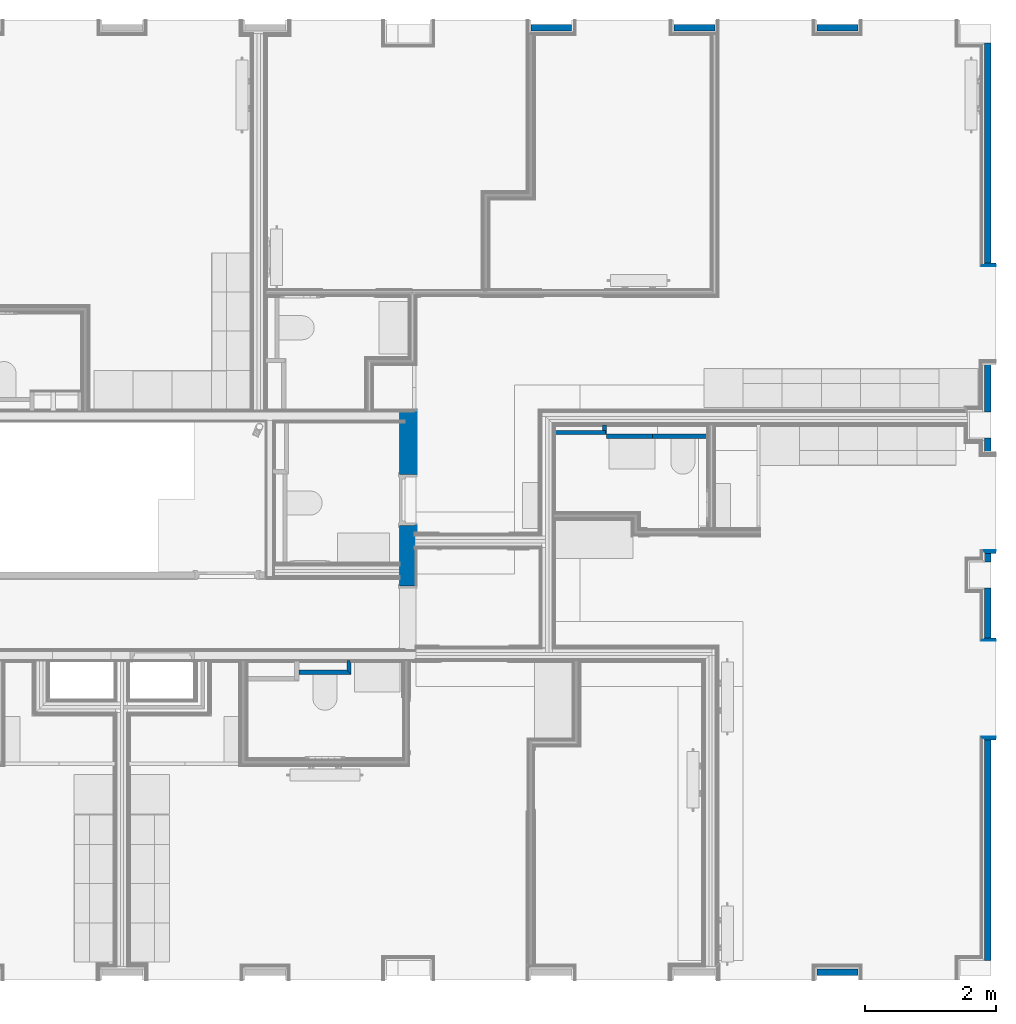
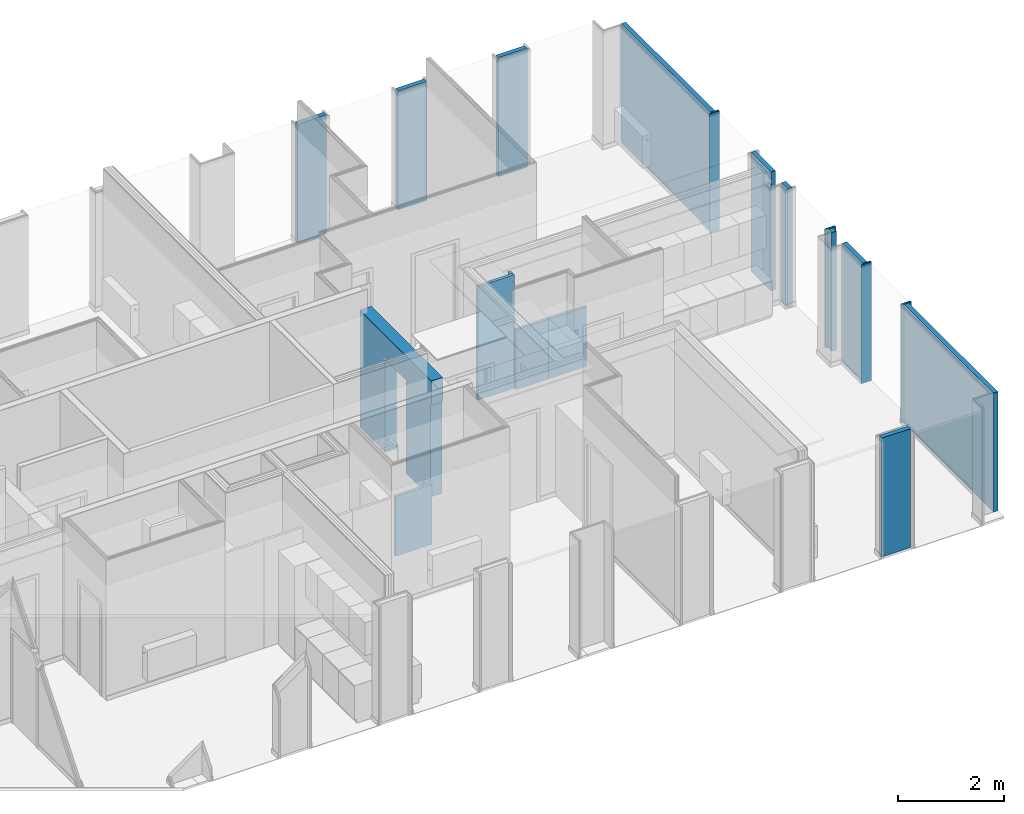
# One storey, part 6 of 65: 26 walls, 3 openings.
"""IFC2X3 building model written with IfcOpenShell, lengths in metres."""

from ifc_helpers import new_model, entity, si_unit, converted_unit, derived_unit, money_unit, direction, frame, frame_2d, origin_with_axes, place, context, subcontext, project, spatial, polyline, rectangle, outline, extrude, material, layer, layer_set, layer_usage, type_object, element, save


model = new_model("IFC2X3")

# Units and contexts
model_context = context("Model", 3, precision=1e-05, world=origin_with_axes(), true_north=direction((0.0, 1.0)))
body_context = subcontext(model_context, "Body", "Model", "MODEL_VIEW", scale=1.0)
ifc_project = project(units=[si_unit("LENGTHUNIT", "METRE"), si_unit("AREAUNIT", "SQUARE_METRE"), si_unit("VOLUMEUNIT", "CUBIC_METRE"), si_unit("ABSORBEDDOSEUNIT", "GRAY"), si_unit("AMOUNTOFSUBSTANCEUNIT", "MOLE"), si_unit("DOSEEQUIVALENTUNIT", "SIEVERT"), si_unit("ELECTRICCAPACITANCEUNIT", "FARAD"), si_unit("ELECTRICCHARGEUNIT", "COULOMB"), si_unit("ELECTRICCONDUCTANCEUNIT", "SIEMENS"), si_unit("ELECTRICCURRENTUNIT", "AMPERE"), si_unit("ELECTRICRESISTANCEUNIT", "OHM"), si_unit("ELECTRICVOLTAGEUNIT", "VOLT"), si_unit("ENERGYUNIT", "JOULE"), si_unit("FORCEUNIT", "NEWTON"), si_unit("FREQUENCYUNIT", "HERTZ"), si_unit("ILLUMINANCEUNIT", "LUX"), si_unit("INDUCTANCEUNIT", "HENRY"), si_unit("LUMINOUSFLUXUNIT", "LUMEN"), si_unit("LUMINOUSINTENSITYUNIT", "CANDELA"), si_unit("MAGNETICFLUXDENSITYUNIT", "TESLA"), si_unit("MAGNETICFLUXUNIT", "WEBER"), si_unit("MASSUNIT", "GRAM"), converted_unit("PLANEANGLEUNIT", "degree", entity("IfcReal", 0.0174532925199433), si_unit("PLANEANGLEUNIT", "RADIAN"), dimensions=[0, 0, 0, 0, 0, 0, 0]), si_unit("POWERUNIT", "WATT"), si_unit("PRESSUREUNIT", "PASCAL"), si_unit("RADIOACTIVITYUNIT", "BECQUEREL"), si_unit("SOLIDANGLEUNIT", "STERADIAN"), si_unit("THERMODYNAMICTEMPERATUREUNIT", "KELVIN"), si_unit("TIMEUNIT", "SECOND"), derived_unit("ACCELERATIONUNIT", [(si_unit("LENGTHUNIT", "METRE"), 1), (si_unit("TIMEUNIT", "SECOND"), -2)]), derived_unit("ANGULARVELOCITYUNIT", [(converted_unit("PLANEANGLEUNIT", "degree", entity("IfcReal", 0.0174532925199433), si_unit("PLANEANGLEUNIT", "RADIAN"), dimensions=[0, 0, 0, 0, 0, 0, 0]), 1), (si_unit("TIMEUNIT", "SECOND"), -1)]), derived_unit("CURVATUREUNIT", [(converted_unit("PLANEANGLEUNIT", "degree", entity("IfcReal", 0.0174532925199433), si_unit("PLANEANGLEUNIT", "RADIAN"), dimensions=[0, 0, 0, 0, 0, 0, 0]), 1), (si_unit("LENGTHUNIT", "METRE"), -1)]), derived_unit("DYNAMICVISCOSITYUNIT", [(si_unit("PRESSUREUNIT", "PASCAL"), 1), (si_unit("TIMEUNIT", "SECOND"), 1)]), derived_unit("HEATFLUXDENSITYUNIT", [(si_unit("POWERUNIT", "WATT"), 1), (si_unit("LENGTHUNIT", "METRE"), -2)]), derived_unit("HEATINGVALUEUNIT", [(si_unit("ENERGYUNIT", "JOULE"), 1), (si_unit("MASSUNIT", "GRAM"), -1)]), derived_unit("INTEGERCOUNTRATEUNIT", [(si_unit("TIMEUNIT", "SECOND"), -1)]), derived_unit("IONCONCENTRATIONUNIT", [(si_unit("MASSUNIT", "GRAM"), 1), (si_unit("VOLUMEUNIT", "CUBIC_METRE"), -1)]), derived_unit("ISOTHERMALMOISTURECAPACITYUNIT", [(si_unit("VOLUMEUNIT", "CUBIC_METRE"), 1), (si_unit("MASSUNIT", "GRAM"), -1)]), derived_unit("KINEMATICVISCOSITYUNIT", [(si_unit("AREAUNIT", "SQUARE_METRE"), 1), (si_unit("TIMEUNIT", "SECOND"), -1)]), derived_unit("LINEARFORCEUNIT", [(si_unit("FORCEUNIT", "NEWTON"), 1), (si_unit("LENGTHUNIT", "METRE"), -1)]), derived_unit("LINEARMOMENTUNIT", [(si_unit("FORCEUNIT", "NEWTON"), 1), (si_unit("LENGTHUNIT", "METRE"), -1)]), derived_unit("LINEARSTIFFNESSUNIT", [(si_unit("FORCEUNIT", "NEWTON"), 1), (si_unit("LENGTHUNIT", "METRE"), -1)]), derived_unit("LINEARVELOCITYUNIT", [(si_unit("LENGTHUNIT", "METRE"), 1), (si_unit("TIMEUNIT", "SECOND"), -1)]), derived_unit("LUMINOUSINTENSITYDISTRIBUTIONUNIT", [(si_unit("LUMINOUSINTENSITYUNIT", "CANDELA"), 1), (si_unit("LUMINOUSFLUXUNIT", "LUMEN"), -1)]), derived_unit("MASSDENSITYUNIT", [(si_unit("MASSUNIT", "GRAM"), 1), (si_unit("VOLUMEUNIT", "CUBIC_METRE"), -1)]), derived_unit("MASSFLOWRATEUNIT", [(si_unit("MASSUNIT", "GRAM"), 1), (si_unit("TIMEUNIT", "SECOND"), -1)]), derived_unit("MASSPERLENGTHUNIT", [(si_unit("MASSUNIT", "GRAM"), 1), (si_unit("LENGTHUNIT", "METRE"), -1)]), derived_unit("MODULUSOFELASTICITYUNIT", [(si_unit("FORCEUNIT", "NEWTON"), 1), (si_unit("AREAUNIT", "SQUARE_METRE"), -1)]), derived_unit("MODULUSOFLINEARSUBGRADEREACTIONUNIT", [(si_unit("FORCEUNIT", "NEWTON"), 1), (si_unit("LENGTHUNIT", "METRE"), -2)]), derived_unit("MODULUSOFROTATIONALSUBGRADEREACTIONUNIT", [(si_unit("FORCEUNIT", "NEWTON"), 1), (si_unit("LENGTHUNIT", "METRE"), 1)]), derived_unit("MODULUSOFSUBGRADEREACTIONUNIT", [(si_unit("FORCEUNIT", "NEWTON"), 1), (si_unit("VOLUMEUNIT", "CUBIC_METRE"), -1)]), derived_unit("MOISTUREDIFFUSIVITYUNIT", [(si_unit("VOLUMEUNIT", "CUBIC_METRE"), 1), (si_unit("TIMEUNIT", "SECOND"), -1)]), derived_unit("MOLECULARWEIGHTUNIT", [(si_unit("MASSUNIT", "GRAM"), 1), (si_unit("AMOUNTOFSUBSTANCEUNIT", "MOLE"), -1)]), derived_unit("PLANARFORCEUNIT", [(si_unit("FORCEUNIT", "NEWTON"), 1), (si_unit("LENGTHUNIT", "METRE"), -2)]), derived_unit("ROTATIONALFREQUENCYUNIT", [(si_unit("TIMEUNIT", "SECOND"), -1)]), derived_unit("ROTATIONALMASSUNIT", [(si_unit("MASSUNIT", "GRAM"), 1), (si_unit("LENGTHUNIT", "METRE"), 2)]), derived_unit("ROTATIONALSTIFFNESSUNIT", [(si_unit("FORCEUNIT", "NEWTON"), 1), (si_unit("LENGTHUNIT", "METRE"), 1), (converted_unit("PLANEANGLEUNIT", "degree", entity("IfcReal", 0.0174532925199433), si_unit("PLANEANGLEUNIT", "RADIAN"), dimensions=[0, 0, 0, 0, 0, 0, 0]), -1)]), derived_unit("SECTIONAREAINTEGRALUNIT", [(si_unit("LENGTHUNIT", "METRE"), 5)]), derived_unit("SECTIONMODULUSUNIT", [(si_unit("LENGTHUNIT", "METRE"), 3)]), derived_unit("SHEARMODULUSUNIT", [(si_unit("FORCEUNIT", "NEWTON"), 1), (si_unit("AREAUNIT", "SQUARE_METRE"), -1)]), derived_unit("SOUNDPOWERUNIT", [(si_unit("ENERGYUNIT", "JOULE"), 1), (si_unit("TIMEUNIT", "SECOND"), -1)]), derived_unit("SPECIFICHEATCAPACITYUNIT", [(si_unit("FORCEUNIT", "NEWTON"), 1), (si_unit("MASSUNIT", "GRAM"), -1), (si_unit("THERMODYNAMICTEMPERATUREUNIT", "KELVIN"), -1)]), derived_unit("TEMPERATUREGRADIENTUNIT", [(si_unit("THERMODYNAMICTEMPERATUREUNIT", "KELVIN"), 1), (si_unit("LENGTHUNIT", "METRE"), -1)]), derived_unit("THERMALADMITTANCEUNIT", [(si_unit("POWERUNIT", "WATT"), 1), (si_unit("AREAUNIT", "SQUARE_METRE"), -1), (si_unit("THERMODYNAMICTEMPERATUREUNIT", "KELVIN"), -1)]), derived_unit("THERMALCONDUCTANCEUNIT", [(si_unit("POWERUNIT", "WATT"), 1), (si_unit("LENGTHUNIT", "METRE"), -1), (si_unit("THERMODYNAMICTEMPERATUREUNIT", "KELVIN"), -1)]), derived_unit("THERMALEXPANSIONCOEFFICIENTUNIT", [(si_unit("THERMODYNAMICTEMPERATUREUNIT", "KELVIN"), -1)]), derived_unit("THERMALRESISTANCEUNIT", [(si_unit("AREAUNIT", "SQUARE_METRE"), 1), (si_unit("POWERUNIT", "WATT"), -1)]), derived_unit("THERMALTRANSMITTANCEUNIT", [(si_unit("POWERUNIT", "WATT"), 1), (si_unit("AREAUNIT", "SQUARE_METRE"), -1), (si_unit("THERMODYNAMICTEMPERATUREUNIT", "KELVIN"), -1)]), derived_unit("TORQUEUNIT", [(si_unit("FORCEUNIT", "NEWTON"), 1), (si_unit("LENGTHUNIT", "METRE"), 1)]), derived_unit("VAPORPERMEABILITYUNIT", [(si_unit("MASSUNIT", "GRAM"), 1), (si_unit("TIMEUNIT", "SECOND"), -1)]), derived_unit("VOLUMETRICFLOWRATEUNIT", [(si_unit("VOLUMEUNIT", "CUBIC_METRE"), 1), (si_unit("TIMEUNIT", "SECOND"), -1)]), derived_unit("WARPINGCONSTANTUNIT", [(si_unit("LENGTHUNIT", "METRE"), 6)]), derived_unit("WARPINGMOMENTUNIT", [(si_unit("FORCEUNIT", "NEWTON"), 1), (si_unit("LENGTHUNIT", "METRE"), 2)]), money_unit("GBP")], contexts=[model_context])

# Site, building, storey
site_placement = place(None, origin_with_axes())
site = spatial("IfcSite", under=ifc_project, at=site_placement, Name="Site", CompositionType="ELEMENT")
building_placement = place(site_placement, origin_with_axes())
building = spatial("IfcBuilding", under=site, at=building_placement, Name="Building01", CompositionType="ELEMENT")
storey_placement = place(building_placement, frame((0.0, 0.0, 8.64), z_axis=(0.0, 0.0, 1.0), x_axis=(1.0, 0.0, 0.0)))
storey = spatial("IfcBuildingStorey", under=building, at=storey_placement, Name="2F", CompositionType="ELEMENT", Elevation=8.64)

# Walls
ifc_material_1 = material(Name="A_BSUK_WallsExternal_Block")
ifc_layer_1 = layer(ifc_material_1, 0.1, ventilated=False)
ifc_layer_set_1 = layer_set([ifc_layer_1])
ifc_layer_usage_1 = layer_usage(ifc_layer_set_1, "AXIS2", "POSITIVE", 0.0)
wall_type_1 = type_object("IfcWallType", Name="A-Walls-ExternalBlock", PredefinedType="NOTDEFINED")
wall_1_placement = place(storey_placement, frame((24.767, 0.27, 0.0), z_axis=(0.0, 0.0, 1.0), x_axis=(-1.0, 0.0, 0.0)))
element("IfcWallStandardCase", 1, at=wall_1_placement, inside=storey, type_object=wall_type_1, material=ifc_layer_usage_1, Name="A-Walls-ExternalBlock", ObjectType="A-Walls-ExternalBlock", context=body_context, shape_type="SweptSolid", body=[
    extrude(rectangle(XDim=0.624, YDim=0.1, at=frame_2d((0.312, 0.05), x_axis=(-1.0, 0.0))), origin_with_axes(), (0.0, 0.0, 1.0), 2.74),
])
for number, where, z_axis, x_axis, name in (
    (2, (19.763, 14.63, 0.0), (0.0, 0.0, 1.0), (1.0, 0.0, 0.0), "A-Walls-ExternalBlock"),
    (3, (21.953, 14.63, 0.0), (0.0, 0.0, 1.0), (1.0, 0.0, 0.0), "A-Walls-ExternalBlock"),
    (4, (24.143, 14.63, 0.0), (0.0, 0.0, 1.0), (1.0, 0.0, 0.0), "A-Walls-ExternalBlock"),
):
    element("IfcWallStandardCase", number, at=place(storey_placement, frame(where, z_axis=z_axis, x_axis=x_axis)), inside=storey, type_object=wall_type_1, material=ifc_layer_usage_1, Name=name, ObjectType="A-Walls-ExternalBlock", context=body_context, shape_type="SweptSolid", body=[
        extrude(rectangle(XDim=0.624, YDim=0.1, at=frame_2d((0.312, 0.05), x_axis=(1.0, 0.0))), origin_with_axes(), (0.0, 0.0, 1.0), 2.74),
    ])
wall_2_placement = place(storey_placement, frame((26.71, 3.77418, 0.0), z_axis=(0.0, 0.0, 1.0), x_axis=(0.0, -1.0, 0.0)))
element("IfcWallStandardCase", 5, at=wall_2_placement, inside=storey, type_object=wall_type_1, material=ifc_layer_usage_1, Name="A-Walls-ExternalBlock", ObjectType="A-Walls-ExternalBlock", context=body_context, shape_type="SweptSolid", body=[
    extrude(rectangle(XDim=3.37418, YDim=0.1, at=frame_2d((1.68709, 0.05), x_axis=(1.0, 0.0))), origin_with_axes(), (0.0, 0.0, 1.0), 2.74),
])
wall_3_placement = place(storey_placement, frame((26.71, 6.634326, 0.0), z_axis=(0.0, 0.0, 1.0), x_axis=(0.0, -1.0, 0.0)))
element("IfcWallStandardCase", 6, at=wall_3_placement, inside=storey, type_object=wall_type_1, material=ifc_layer_usage_1, Name="A-Walls-ExternalBlock", ObjectType="A-Walls-ExternalBlock", context=body_context, shape_type="SweptSolid", body=[
    extrude(rectangle(XDim=0.134326, YDim=0.1, at=frame_2d((0.067163, 0.05), x_axis=(1.0, 0.0))), origin_with_axes(), (0.0, 0.0, 1.0), 2.74),
])
wall_4_placement = place(storey_placement, frame((26.71, 9.55018, 0.0), z_axis=(0.0, 0.0, 1.0), x_axis=(0.0, -1.0, 0.0)))
element("IfcWallStandardCase", 7, at=wall_4_placement, inside=storey, type_object=wall_type_1, material=ifc_layer_usage_1, Name="A-Walls-ExternalBlock", ObjectType="A-Walls-ExternalBlock", context=body_context, shape_type="SweptSolid", body=[
    extrude(rectangle(XDim=0.1, YDim=0.75018, at=frame_2d((0.37509, 0.05), x_axis=(0.0, -1.0))), origin_with_axes(), (0.0, 0.0, 1.0), 2.74),
])
wall_5_placement = place(storey_placement, frame((26.71, 8.4, 0.0), z_axis=(0.0, 0.0, 1.0), x_axis=(0.0, -1.0, 0.0)))
element("IfcWallStandardCase", 8, at=wall_5_placement, inside=storey, type_object=wall_type_1, material=ifc_layer_usage_1, Name="A-Walls-ExternalBlock", ObjectType="A-Walls-ExternalBlock", context=body_context, shape_type="SweptSolid", body=[
    extrude(rectangle(XDim=0.235674, YDim=0.1, at=frame_2d((0.117837, 0.05), x_axis=(-1.0, 0.0))), origin_with_axes(), (0.0, 0.0, 1.0), 2.74),
])
wall_6_placement = place(storey_placement, frame((26.71, 14.45, 0.0), z_axis=(0.0, 0.0, 1.0), x_axis=(0.0, -1.0, 0.0)))
element("IfcWallStandardCase", 9, at=wall_6_placement, inside=storey, type_object=wall_type_1, material=ifc_layer_usage_1, Name="A-Walls-ExternalBlock", ObjectType="A-Walls-ExternalBlock", context=body_context, shape_type="SweptSolid", body=[
    extrude(rectangle(XDim=3.36982, YDim=0.1, at=frame_2d((1.68491, 0.05), x_axis=(1.0, 0.0))), origin_with_axes(), (0.0, 0.0, 1.0), 2.74),
])
wall_7_placement = place(storey_placement, frame((26.71, 6.1, 0.0), z_axis=(0.0, 0.0, 1.0), x_axis=(0.0, -1.0, 0.0)))
element("IfcWallStandardCase", 10, at=wall_7_placement, inside=storey, type_object=wall_type_1, material=ifc_layer_usage_1, Name="A-Walls-ExternalBlock", ObjectType="A-Walls-ExternalBlock", context=body_context, shape_type="SweptSolid", body=[
    extrude(rectangle(XDim=0.75982, YDim=0.1, at=frame_2d((0.37991, 0.05), x_axis=(1.0, 0.0))), origin_with_axes(), (0.0, 0.0, 1.0), 2.74),
])
ifc_material_2 = material(Name="A_BSUK_Walls_Timber")
ifc_layer_2 = layer(ifc_material_2, 0.015, ventilated=False)
ifc_material_3 = material(Name="A_BSUK_OpeningsClearance")
ifc_layer_3 = layer(ifc_material_3, 0.05, ventilated=False)
ifc_layer_set_2 = layer_set([ifc_layer_2, ifc_layer_3])
ifc_layer_usage_2 = layer_usage(ifc_layer_set_2, "AXIS2", "POSITIVE", 0.0)
wall_type_2 = type_object("IfcWallType", Name="SHE_A-Walls_Type05c_PreWallShell_65mm", PredefinedType="NOTDEFINED")
wall_8_placement = place(storey_placement, frame((16.9425, 4.845, 0.0), z_axis=(0.0, 0.0, 1.0), x_axis=(0.0, 1.0, 0.0)))
element("IfcWallStandardCase", 11, at=wall_8_placement, inside=storey, type_object=wall_type_2, material=ifc_layer_usage_2, Name="5C", ObjectType="SHE_A-Walls_Type05c_PreWallShell_65mm", context=body_context, shape_type="SweptSolid", body=[
    extrude(outline(polyline([(0.12, -0.05), (0.15, -0.05), (0.15, 0.0), (0.0, 0.0), (-0.065, -0.065), (0.12, -0.065), (0.12, -0.05)])), origin_with_axes(), (0.0, 0.0, 1.0), 1.375),
])
wall_9_placement = place(storey_placement, frame((16.2075, 4.845, 0.0), z_axis=(0.0, 0.0, 1.0), x_axis=(1.0, 0.0, 0.0)))
element("IfcWallStandardCase", 12, at=wall_9_placement, inside=storey, type_object=wall_type_2, material=ifc_layer_usage_2, Name="5C", ObjectType="SHE_A-Walls_Type05c_PreWallShell_65mm", context=body_context, shape_type="SweptSolid", body=[
    extrude(outline(polyline([(0.735, 0.0), (0.0, 0.0), (0.0, -0.065), (0.8, -0.065), (0.735, 0.0)])), origin_with_axes(), (0.0, 0.0, 1.0), 1.375),
])
ifc_layer_set_3 = layer_set([ifc_layer_3, ifc_layer_2])
ifc_layer_usage_3 = layer_usage(ifc_layer_set_3, "AXIS2", "POSITIVE", 0.0)
wall_10_placement = place(storey_placement, frame((20.907661, 8.515, 0.0), z_axis=(0.0, 0.0, 1.0), x_axis=(-1.0, 0.0, 0.0)))
element("IfcWallStandardCase", 13, at=wall_10_placement, inside=storey, type_object=wall_type_2, material=ifc_layer_usage_3, Name="5C", ObjectType="SHE_A-Walls_Type05c_PreWallShell_65mm", context=body_context, shape_type="SweptSolid", body=[
    extrude(outline(polyline([(0.785, 0.065), (-0.015, 0.065), (-0.015, 0.05), (0.0, 0.05), (0.0, 0.0), (0.785, 0.0), (0.785, 0.065)])), origin_with_axes(), (0.0, 0.0, 1.0), 2.615),
])
wall_11_placement = place(storey_placement, frame((20.857661, 8.595, 0.0), z_axis=(0.0, 0.0, 1.0), x_axis=(0.0, -1.0, 0.0)))
element("IfcWallStandardCase", 14, at=wall_11_placement, inside=storey, type_object=wall_type_2, material=ifc_layer_usage_3, Name="5C", ObjectType="SHE_A-Walls_Type05c_PreWallShell_65mm", context=body_context, shape_type="SweptSolid", body=[
    extrude(outline(polyline([(0.08, 0.05), (0.13, 0.05), (0.13, 0.065), (0.0, 0.065), (0.0, 0.0), (0.08, 0.0), (0.08, 0.05)])), origin_with_axes(), (0.0, 0.0, 1.0), 2.615),
])
wall_12_placement = place(storey_placement, frame((21.626659, 8.460003, 0.0), z_axis=(0.0, 0.0, 1.0), x_axis=(-1.0, 0.0, 0.0)))
element("IfcWallStandardCase", 15, at=wall_12_placement, inside=storey, type_object=wall_type_2, material=ifc_layer_usage_3, Name="5C", ObjectType="SHE_A-Walls_Type05c_PreWallShell_65mm", context=body_context, shape_type="SweptSolid", body=[
    extrude(rectangle(XDim=0.703998, YDim=0.065, at=frame_2d((0.351999, 0.0325), x_axis=(-1.0, 0.0))), origin_with_axes(), (0.0, 0.0, 1.0), 1.375),
])
wall_13_placement = place(storey_placement, frame((22.461661, 8.46, 0.0), z_axis=(0.0, 0.0, 1.0), x_axis=(-1.0, 0.0, 0.0)))
element("IfcWallStandardCase", 16, at=wall_13_placement, inside=storey, type_object=wall_type_2, material=ifc_layer_usage_3, Name="5C", ObjectType="SHE_A-Walls_Type05c_PreWallShell_65mm", context=body_context, shape_type="SweptSolid", body=[
    extrude(rectangle(XDim=0.835002, YDim=0.065, at=frame_2d((0.417501, 0.0325), x_axis=(1.0, 0.0))), origin_with_axes(), (0.0, 0.0, 1.0), 1.375),
])
ifc_material_4 = material(Name="A_BSUK_WallInternal_Finishes_Plasterboard")
ifc_layer_4 = layer(ifc_material_4, 0.013, ventilated=False)
ifc_layer_set_4 = layer_set([ifc_layer_4])
ifc_layer_usage_4 = layer_usage(ifc_layer_set_4, "AXIS2", "POSITIVE", 0.0)
wall_type_3 = type_object("IfcWallType", Name="default", PredefinedType="NOTDEFINED")
wall_14_placement = place(storey_placement, frame((26.675, 3.80918, 0.0), z_axis=(0.0, 0.0, 1.0), x_axis=(1.0, 0.0, 0.0)))
element("IfcWallStandardCase", 17, at=wall_14_placement, inside=storey, type_object=wall_type_3, material=ifc_layer_usage_4, Name="default", ObjectType="default", context=body_context, shape_type="SweptSolid", body=[
    extrude(outline(polyline([(-0.013, 0.013), (0.0, 0.0), (0.205, 0.0), (0.205, 0.013), (-0.013, 0.013)])), origin_with_axes(), (0.0, 0.0, 1.0), 2.74),
])
ifc_material_5 = material(Name="A_BSUK_Insulation")
ifc_layer_5 = layer(ifc_material_5, 0.036, ventilated=False)
ifc_layer_set_5 = layer_set([ifc_layer_5])
ifc_layer_usage_5 = layer_usage(ifc_layer_set_5, "AXIS2", "POSITIVE", 0.0)
wall_15_placement = place(storey_placement, frame((26.71, 3.77418, 0.0), z_axis=(0.0, 0.0, 1.0), x_axis=(1.0, 0.0, 0.0)))
element("IfcWallStandardCase", 18, at=wall_15_placement, inside=storey, type_object=wall_type_3, material=ifc_layer_usage_5, Name="default", ObjectType="default", context=body_context, shape_type="SweptSolid", body=[
    extrude(outline(polyline([(-0.036, 0.036), (0.0, 0.0), (0.17, 0.0), (0.17, 0.036), (-0.036, 0.036)])), origin_with_axes(), (0.0, 0.0, 1.0), 2.74),
])
wall_16_placement = place(storey_placement, frame((26.88, 5.30518, 0.0), z_axis=(0.0, 0.0, 1.0), x_axis=(-1.0, 0.0, 0.0)))
element("IfcWallStandardCase", 19, at=wall_16_placement, inside=storey, type_object=wall_type_3, material=ifc_layer_usage_4, Name="default", ObjectType="default", context=body_context, shape_type="SweptSolid", body=[
    extrude(outline(polyline([(0.218, 0.013), (0.0, 0.013), (0.0, 0.0), (0.205, 0.0), (0.218, 0.013)])), origin_with_axes(), (0.0, 0.0, 1.0), 2.74),
])
wall_17_placement = place(storey_placement, frame((26.88, 5.34018, 0.0), z_axis=(0.0, 0.0, 1.0), x_axis=(-1.0, 0.0, 0.0)))
element("IfcWallStandardCase", 20, at=wall_17_placement, inside=storey, type_object=wall_type_3, material=ifc_layer_usage_5, Name="default", ObjectType="default", context=body_context, shape_type="SweptSolid", body=[
    extrude(outline(polyline([(0.206, 0.036), (0.0, 0.036), (0.0, 0.0), (0.17, 0.0), (0.206, 0.036)])), origin_with_axes(), (0.0, 0.0, 1.0), 2.74),
])
wall_18_placement = place(storey_placement, frame((26.675, 6.669326, 0.0), z_axis=(0.0, 0.0, 1.0), x_axis=(1.0, 0.0, 0.0)))
element("IfcWallStandardCase", 21, at=wall_18_placement, inside=storey, type_object=wall_type_3, material=ifc_layer_usage_4, Name="default", ObjectType="default", context=body_context, shape_type="SweptSolid", body=[
    extrude(outline(polyline([(-0.013, 0.013), (0.0, 0.0), (0.205, 0.0), (0.205, 0.013), (-0.013, 0.013)])), origin_with_axes(), (0.0, 0.0, 1.0), 2.74),
])
wall_19_placement = place(storey_placement, frame((26.71, 6.634326, 0.0), z_axis=(0.0, 0.0, 1.0), x_axis=(1.0, 0.0, 0.0)))
element("IfcWallStandardCase", 22, at=wall_19_placement, inside=storey, type_object=wall_type_3, material=ifc_layer_usage_5, Name="default", ObjectType="default", context=body_context, shape_type="SweptSolid", body=[
    extrude(outline(polyline([(-0.036, 0.036), (0.0, 0.0), (0.17, 0.0), (0.17, 0.036), (-0.036, 0.036)])), origin_with_axes(), (0.0, 0.0, 1.0), 2.74),
])
wall_20_placement = place(storey_placement, frame((26.88, 11.04518, 0.0), z_axis=(0.0, 0.0, 1.0), x_axis=(-1.0, 0.0, 0.0)))
element("IfcWallStandardCase", 23, at=wall_20_placement, inside=storey, type_object=wall_type_3, material=ifc_layer_usage_4, Name="default", ObjectType="default", context=body_context, shape_type="SweptSolid", body=[
    extrude(outline(polyline([(0.218, 0.013), (0.0, 0.013), (0.0, 0.0), (0.205, 0.0), (0.218, 0.013)])), origin_with_axes(), (0.0, 0.0, 1.0), 2.74),
])
wall_21_placement = place(storey_placement, frame((26.88, 11.08018, 0.0), z_axis=(0.0, 0.0, 1.0), x_axis=(-1.0, 0.0, 0.0)))
element("IfcWallStandardCase", 24, at=wall_21_placement, inside=storey, type_object=wall_type_3, material=ifc_layer_usage_5, Name="default", ObjectType="default", context=body_context, shape_type="SweptSolid", body=[
    extrude(outline(polyline([(0.206, 0.036), (0.0, 0.036), (0.0, 0.0), (0.17, 0.0), (0.206, 0.036)])), origin_with_axes(), (0.0, 0.0, 1.0), 2.74),
])

# Wall, opening
ifc_layer_set_6 = layer_set([ifc_layer_2])
ifc_layer_usage_6 = layer_usage(ifc_layer_set_6, "AXIS2", "POSITIVE", 0.0)
wall_22_placement = place(storey_placement, frame((18.0, 8.835, 0.015), z_axis=(0.0, 0.0, 1.0), x_axis=(0.0, -1.0, 0.0)))
wall_22 = element("IfcWallStandardCase", 25, at=wall_22_placement, inside=storey, type_object=wall_type_3, material=ifc_layer_usage_6, Name="default", ObjectType="default", context=body_context, shape_type="SweptSolid", body=[
    extrude(rectangle(XDim=1.89, YDim=0.015, at=frame_2d((0.945, 0.0075), x_axis=(-1.0, 0.0))), origin_with_axes(), (0.0, 0.0, 1.0), 0.1),
])
opening_1_placement = place(wall_22_placement, frame((0.993, 0.0, -0.015), z_axis=(0.0, 0.0, 1.0), x_axis=(1.0, 0.0, 0.0)))
element("IfcOpeningElement", 26, at=opening_1_placement, cuts=wall_22, Name="Opening", ObjectType="Opening", context=body_context, shape_type="SweptSolid", body=[
    extrude(rectangle(XDim=2.142, YDim=0.784, at=frame_2d((-0.392, 1.071), x_axis=(0.0, -1.0))), frame((0.0, 0.0, 0.0), z_axis=(0.0, 1.0, 0.0), x_axis=(-1.0, 0.0, 0.0)), (0.0, 0.0, 1.0), 0.015),
])

# Wall, openings
ifc_material_6 = material(Name="A_BSUK_Walls_Concrete")
ifc_layer_6 = layer(ifc_material_6, 0.25, ventilated=False)
ifc_layer_set_7 = layer_set([ifc_layer_6])
ifc_layer_usage_7 = layer_usage(ifc_layer_set_7, "AXIS2", "POSITIVE", 0.0)
wall_type_4 = type_object("IfcWallType", Name="A-Walls-Concrete", PredefinedType="NOTDEFINED")
wall_23_placement = place(storey_placement, frame((17.875, 8.8, 0.0), z_axis=(0.0, 0.0, 1.0), x_axis=(0.0, -1.0, 0.0)))
wall_23 = element("IfcWallStandardCase", 27, at=wall_23_placement, inside=storey, type_object=wall_type_4, material=ifc_layer_usage_7, Name="A-Walls-Concrete", ObjectType="A-Walls-Concrete", context=body_context, shape_type="SweptSolid", body=[
    extrude(rectangle(XDim=2.7, YDim=0.25, at=frame_2d((1.35, 0.0), x_axis=(1.0, 0.0))), origin_with_axes(), (0.0, 0.0, 1.0), 2.7),
])
opening_2_placement = place(wall_23_placement, frame((0.958, -0.125, 0.0), z_axis=(0.0, 0.0, 1.0), x_axis=(1.0, 0.0, 0.0)))
element("IfcOpeningElement", 28, at=opening_2_placement, cuts=wall_23, Name="Opening", ObjectType="Opening", context=body_context, shape_type="SweptSolid", body=[
    extrude(rectangle(XDim=2.142, YDim=0.784, at=frame_2d((-0.392, 1.071), x_axis=(0.0, -1.0))), frame((0.0, 0.0, 0.0), z_axis=(0.0, 1.0, 0.0), x_axis=(-1.0, 0.0, 0.0)), (0.0, 0.0, 1.0), 0.25),
])
opening_3_placement = place(wall_23_placement, frame((2.666, -0.125, 0.0), z_axis=(0.0, 0.0, 1.0), x_axis=(1.0, 0.0, 0.0)))
element("IfcOpeningElement", 29, at=opening_3_placement, cuts=wall_23, Name="Opening", ObjectType="Opening", context=body_context, shape_type="SweptSolid", body=[
    extrude(rectangle(XDim=2.142, YDim=0.984, at=frame_2d((-0.492, 1.071), x_axis=(0.0, -1.0))), frame((0.0, 0.0, 0.0), z_axis=(0.0, 1.0, 0.0), x_axis=(-1.0, 0.0, 0.0)), (0.0, 0.0, 1.0), 0.25),
])

save(model, "model.ifc")
